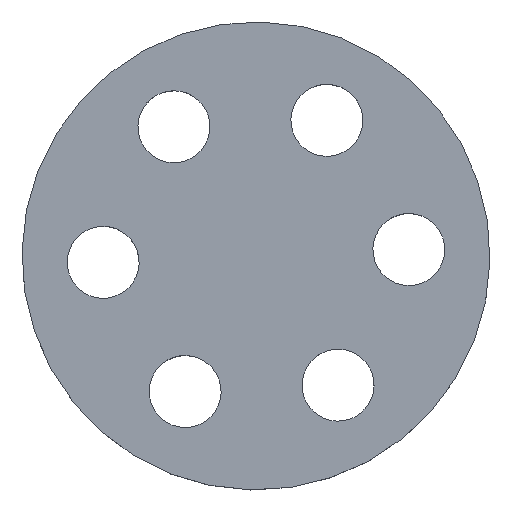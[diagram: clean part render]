
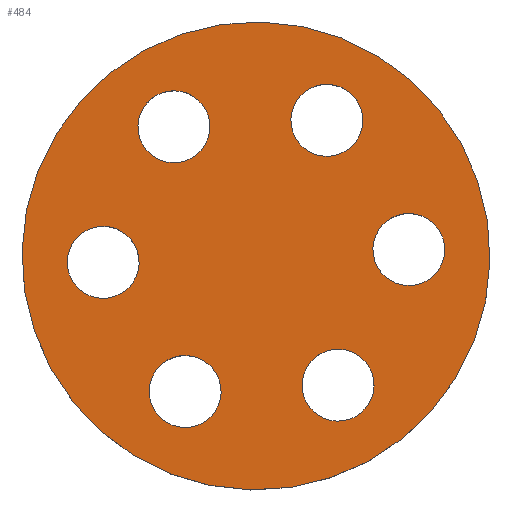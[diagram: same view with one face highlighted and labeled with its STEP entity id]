
A CAD part, top view. The second image highlights one B-rep face of the part: STEP entity #484.
In plain terms, the highlighted planar face has unit normal (0, 0, 1).
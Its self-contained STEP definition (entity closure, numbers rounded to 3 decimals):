
#61=CARTESIAN_POINT('Vertex',(6.737,-0.601,-30.36)) ;
#66=CARTESIAN_POINT('Axis2P3D Location',(8.492,0.358,-30.36)) ;
#70=CARTESIAN_POINT('Vertex',(10.248,1.316,-30.36)) ;
#92=CARTESIAN_POINT('Axis2P3D Location',(8.492,0.358,-30.36)) ;
#120=CARTESIAN_POINT('Vertex',(-11.409,-6.233,-30.36)) ;
#123=CARTESIAN_POINT('Axis2P3D Location',(0.,0.,-30.36)) ;
#127=CARTESIAN_POINT('Vertex',(11.409,6.233,-30.36)) ;
#149=CARTESIAN_POINT('Axis2P3D Location',(0.,0.,-30.36)) ;
#175=CARTESIAN_POINT('Vertex',(-2.848,6.135,-30.36)) ;
#180=CARTESIAN_POINT('Axis2P3D Location',(-4.556,7.176,-30.36)) ;
#184=CARTESIAN_POINT('Vertex',(-6.264,8.216,-30.36)) ;
#206=CARTESIAN_POINT('Axis2P3D Location',(-4.556,7.176,-30.36)) ;
#232=CARTESIAN_POINT('Vertex',(3.889,5.534,-30.36)) ;
#237=CARTESIAN_POINT('Axis2P3D Location',(3.937,7.534,-30.36)) ;
#241=CARTESIAN_POINT('Vertex',(3.984,9.533,-30.36)) ;
#263=CARTESIAN_POINT('Axis2P3D Location',(3.937,7.534,-30.36)) ;
#289=CARTESIAN_POINT('Vertex',(-6.737,0.601,-30.36)) ;
#294=CARTESIAN_POINT('Axis2P3D Location',(-8.492,-0.358,-30.36)) ;
#298=CARTESIAN_POINT('Vertex',(-10.248,-1.316,-30.36)) ;
#320=CARTESIAN_POINT('Axis2P3D Location',(-8.492,-0.358,-30.36)) ;
#346=CARTESIAN_POINT('Vertex',(-3.889,-5.534,-30.36)) ;
#351=CARTESIAN_POINT('Axis2P3D Location',(-3.937,-7.534,-30.36)) ;
#355=CARTESIAN_POINT('Vertex',(-3.984,-9.533,-30.36)) ;
#377=CARTESIAN_POINT('Axis2P3D Location',(-3.937,-7.534,-30.36)) ;
#403=CARTESIAN_POINT('Vertex',(2.848,-6.135,-30.36)) ;
#408=CARTESIAN_POINT('Axis2P3D Location',(4.556,-7.176,-30.36)) ;
#412=CARTESIAN_POINT('Vertex',(6.264,-8.216,-30.36)) ;
#434=CARTESIAN_POINT('Axis2P3D Location',(4.556,-7.176,-30.36)) ;
#451=CARTESIAN_POINT('Axis2P3D Location',(-2.5,0.,-30.36)) ;
#67=DIRECTION('Axis2P3D Direction',(0.,-0.,1.)) ;
#93=DIRECTION('Axis2P3D Direction',(0.,-0.,1.)) ;
#124=DIRECTION('Axis2P3D Direction',(0.,0.,1.)) ;
#150=DIRECTION('Axis2P3D Direction',(0.,0.,1.)) ;
#181=DIRECTION('Axis2P3D Direction',(0.,0.,1.)) ;
#207=DIRECTION('Axis2P3D Direction',(0.,0.,1.)) ;
#238=DIRECTION('Axis2P3D Direction',(0.,-0.,1.)) ;
#264=DIRECTION('Axis2P3D Direction',(0.,-0.,1.)) ;
#295=DIRECTION('Axis2P3D Direction',(0.,0.,1.)) ;
#321=DIRECTION('Axis2P3D Direction',(0.,0.,1.)) ;
#352=DIRECTION('Axis2P3D Direction',(0.,0.,1.)) ;
#378=DIRECTION('Axis2P3D Direction',(0.,0.,1.)) ;
#409=DIRECTION('Axis2P3D Direction',(-0.,0.,1.)) ;
#435=DIRECTION('Axis2P3D Direction',(-0.,0.,1.)) ;
#452=DIRECTION('Axis2P3D Direction',(0.,0.,1.)) ;
#453=DIRECTION('Axis2P3D XDirection',(1.,0.,0.)) ;
#68=AXIS2_PLACEMENT_3D('Circle Axis2P3D',#66,#67,$) ;
#94=AXIS2_PLACEMENT_3D('Circle Axis2P3D',#92,#93,$) ;
#125=AXIS2_PLACEMENT_3D('Circle Axis2P3D',#123,#124,$) ;
#151=AXIS2_PLACEMENT_3D('Circle Axis2P3D',#149,#150,$) ;
#182=AXIS2_PLACEMENT_3D('Circle Axis2P3D',#180,#181,$) ;
#208=AXIS2_PLACEMENT_3D('Circle Axis2P3D',#206,#207,$) ;
#239=AXIS2_PLACEMENT_3D('Circle Axis2P3D',#237,#238,$) ;
#265=AXIS2_PLACEMENT_3D('Circle Axis2P3D',#263,#264,$) ;
#296=AXIS2_PLACEMENT_3D('Circle Axis2P3D',#294,#295,$) ;
#322=AXIS2_PLACEMENT_3D('Circle Axis2P3D',#320,#321,$) ;
#353=AXIS2_PLACEMENT_3D('Circle Axis2P3D',#351,#352,$) ;
#379=AXIS2_PLACEMENT_3D('Circle Axis2P3D',#377,#378,$) ;
#410=AXIS2_PLACEMENT_3D('Circle Axis2P3D',#408,#409,$) ;
#436=AXIS2_PLACEMENT_3D('Circle Axis2P3D',#434,#435,$) ;
#454=AXIS2_PLACEMENT_3D('Plane Axis2P3D',#451,#452,#453) ;
#457=ORIENTED_EDGE('',*,*,#153,.T.) ;
#458=ORIENTED_EDGE('',*,*,#129,.T.) ;
#461=ORIENTED_EDGE('',*,*,#438,.F.) ;
#462=ORIENTED_EDGE('',*,*,#414,.F.) ;
#465=ORIENTED_EDGE('',*,*,#381,.F.) ;
#466=ORIENTED_EDGE('',*,*,#357,.F.) ;
#469=ORIENTED_EDGE('',*,*,#324,.F.) ;
#470=ORIENTED_EDGE('',*,*,#300,.F.) ;
#473=ORIENTED_EDGE('',*,*,#267,.F.) ;
#474=ORIENTED_EDGE('',*,*,#243,.F.) ;
#477=ORIENTED_EDGE('',*,*,#96,.F.) ;
#478=ORIENTED_EDGE('',*,*,#72,.F.) ;
#481=ORIENTED_EDGE('',*,*,#210,.F.) ;
#482=ORIENTED_EDGE('',*,*,#186,.F.) ;
#463=FACE_BOUND('',#460,.T.) ;
#467=FACE_BOUND('',#464,.T.) ;
#471=FACE_BOUND('',#468,.T.) ;
#475=FACE_BOUND('',#472,.T.) ;
#479=FACE_BOUND('',#476,.T.) ;
#483=FACE_BOUND('',#480,.T.) ;
#484=ADVANCED_FACE('Corps principal',(#459,#463,#467,#471,#475,#479,#483),#455,.T.) ;
#69=CIRCLE('generated circle',#68,2.) ;
#95=CIRCLE('generated circle',#94,2.) ;
#126=CIRCLE('generated circle',#125,13.) ;
#152=CIRCLE('generated circle',#151,13.) ;
#183=CIRCLE('generated circle',#182,2.) ;
#209=CIRCLE('generated circle',#208,2.) ;
#240=CIRCLE('generated circle',#239,2.) ;
#266=CIRCLE('generated circle',#265,2.) ;
#297=CIRCLE('generated circle',#296,2.) ;
#323=CIRCLE('generated circle',#322,2.) ;
#354=CIRCLE('generated circle',#353,2.) ;
#380=CIRCLE('generated circle',#379,2.) ;
#411=CIRCLE('generated circle',#410,2.) ;
#437=CIRCLE('generated circle',#436,2.) ;
#72=EDGE_CURVE('',#62,#71,#69,.T.) ;
#96=EDGE_CURVE('',#71,#62,#95,.T.) ;
#129=EDGE_CURVE('',#128,#121,#126,.T.) ;
#153=EDGE_CURVE('',#121,#128,#152,.T.) ;
#186=EDGE_CURVE('',#176,#185,#183,.T.) ;
#210=EDGE_CURVE('',#185,#176,#209,.T.) ;
#243=EDGE_CURVE('',#233,#242,#240,.T.) ;
#267=EDGE_CURVE('',#242,#233,#266,.T.) ;
#300=EDGE_CURVE('',#290,#299,#297,.T.) ;
#324=EDGE_CURVE('',#299,#290,#323,.T.) ;
#357=EDGE_CURVE('',#347,#356,#354,.T.) ;
#381=EDGE_CURVE('',#356,#347,#380,.T.) ;
#414=EDGE_CURVE('',#404,#413,#411,.T.) ;
#438=EDGE_CURVE('',#413,#404,#437,.T.) ;
#456=EDGE_LOOP('',(#457,#458)) ;
#460=EDGE_LOOP('',(#461,#462)) ;
#464=EDGE_LOOP('',(#465,#466)) ;
#468=EDGE_LOOP('',(#469,#470)) ;
#472=EDGE_LOOP('',(#473,#474)) ;
#476=EDGE_LOOP('',(#477,#478)) ;
#480=EDGE_LOOP('',(#481,#482)) ;
#459=FACE_OUTER_BOUND('',#456,.T.) ;
#455=PLANE('Plane',#454) ;
#62=VERTEX_POINT('',#61) ;
#71=VERTEX_POINT('',#70) ;
#121=VERTEX_POINT('',#120) ;
#128=VERTEX_POINT('',#127) ;
#176=VERTEX_POINT('',#175) ;
#185=VERTEX_POINT('',#184) ;
#233=VERTEX_POINT('',#232) ;
#242=VERTEX_POINT('',#241) ;
#290=VERTEX_POINT('',#289) ;
#299=VERTEX_POINT('',#298) ;
#347=VERTEX_POINT('',#346) ;
#356=VERTEX_POINT('',#355) ;
#404=VERTEX_POINT('',#403) ;
#413=VERTEX_POINT('',#412) ;
